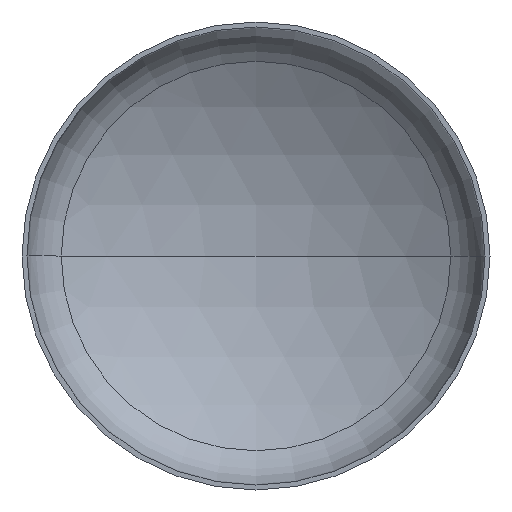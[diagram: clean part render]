
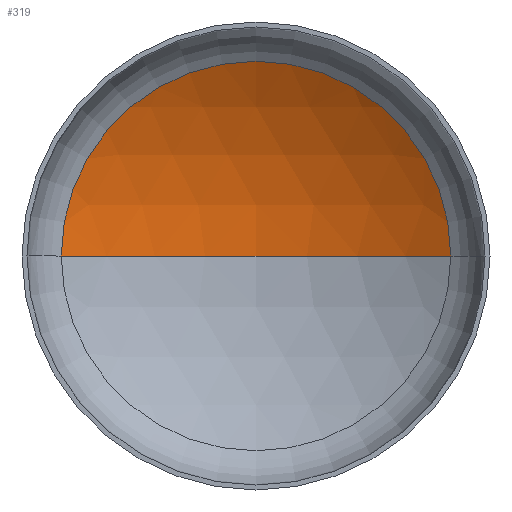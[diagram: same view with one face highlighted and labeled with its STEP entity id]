
A CAD part, front view. The second image highlights one B-rep face of the part: STEP entity #319.
In plain terms, the highlighted spherical face has radius 1440 mm.
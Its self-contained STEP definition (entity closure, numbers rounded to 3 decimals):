
#9 = AXIS2_PLACEMENT_3D ( 'NONE', #376, #250, #392 ) ;
#13 = AXIS2_PLACEMENT_3D ( 'NONE', #183, #331, #203 ) ;
#18 = CIRCLE ( 'NONE', #93, 749.047 ) ;
#23 = VERTEX_POINT ( 'NONE', #85 ) ;
#30 = ORIENTED_EDGE ( 'NONE', *, *, #148, .T. ) ;
#61 = ORIENTED_EDGE ( 'NONE', *, *, #352, .T. ) ;
#74 = ORIENTED_EDGE ( 'NONE', *, *, #354, .F. ) ;
#85 = CARTESIAN_POINT ( 'NONE',  ( -749.047, 294.867, 0. ) ) ;
#87 = AXIS2_PLACEMENT_3D ( 'NONE', #276, #292, #155 ) ;
#93 = AXIS2_PLACEMENT_3D ( 'NONE', #271, #195, #222 ) ;
#101 = VERTEX_POINT ( 'NONE', #257 ) ;
#103 = EDGE_LOOP ( 'NONE', ( #74, #61, #30 ) ) ;
#148 = EDGE_CURVE ( 'NONE', #312, #23, #18, .T. ) ;
#155 = DIRECTION ( 'NONE',  ( -1., 0., 0. ) ) ;
#183 = CARTESIAN_POINT ( 'NONE',  ( 0., -934.982, 0. ) ) ;
#195 = DIRECTION ( 'NONE',  ( 0., -1., 0. ) ) ;
#203 = DIRECTION ( 'NONE',  ( -1., 0., 0. ) ) ;
#222 = DIRECTION ( 'NONE',  ( 1., 0., 0. ) ) ;
#242 = CIRCLE ( 'NONE', #9, 1440. ) ;
#250 = DIRECTION ( 'NONE',  ( 0., 0., 1. ) ) ;
#257 = CARTESIAN_POINT ( 'NONE',  ( 0., 505.018, 0. ) ) ;
#271 = CARTESIAN_POINT ( 'NONE',  ( 0., 294.867, 0. ) ) ;
#276 = CARTESIAN_POINT ( 'NONE',  ( 0., -934.982, 0. ) ) ;
#292 = DIRECTION ( 'NONE',  ( 0., 0., -1. ) ) ;
#311 = FACE_OUTER_BOUND ( 'NONE', #103, .T. ) ;
#312 = VERTEX_POINT ( 'NONE', #389 ) ;
#319 = ADVANCED_FACE ( 'NONE', ( #311 ), #323, .F. ) ;
#323 = SPHERICAL_SURFACE ( 'NONE', #87, 1440. ) ;
#331 = DIRECTION ( 'NONE',  ( 0., 0., -1. ) ) ;
#352 = EDGE_CURVE ( 'NONE', #101, #312, #358, .T. ) ;
#354 = EDGE_CURVE ( 'NONE', #101, #23, #242, .T. ) ;
#358 = CIRCLE ( 'NONE', #13, 1440. ) ;
#376 = CARTESIAN_POINT ( 'NONE',  ( 0., -934.982, 0. ) ) ;
#389 = CARTESIAN_POINT ( 'NONE',  ( 749.047, 294.867, 0. ) ) ;
#392 = DIRECTION ( 'NONE',  ( 1., 0., 0. ) ) ;
